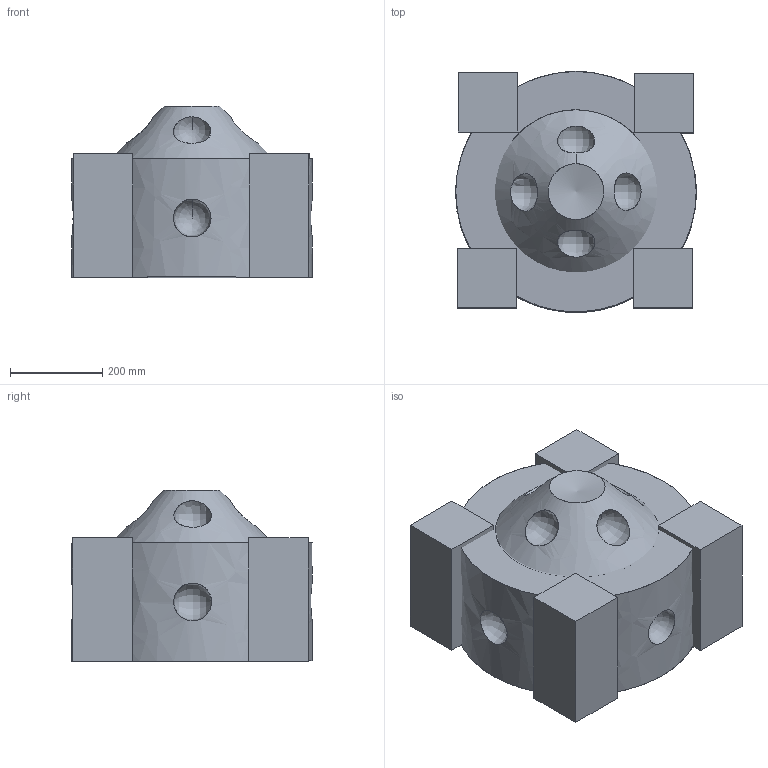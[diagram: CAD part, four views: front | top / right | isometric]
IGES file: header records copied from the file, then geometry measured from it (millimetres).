
Global section: file name: C:\data\ZemaxVC\objects\weird_thing.igs; native system: Rhinoceros ( Dec 13 1999 ); preprocessor: Trout Lake IGES 012 Dec  9 1999; date: 010117.213427
Bounding box: 520.55 x 521.49 x 371.72 mm (x, y, z)
Surface area: 1796809.2 mm2 (no closed solid volume)
Topology: 0 solids, 0 shells, 39 faces, 338 edges, 327 vertices
Faces by surface type: bspline 39
